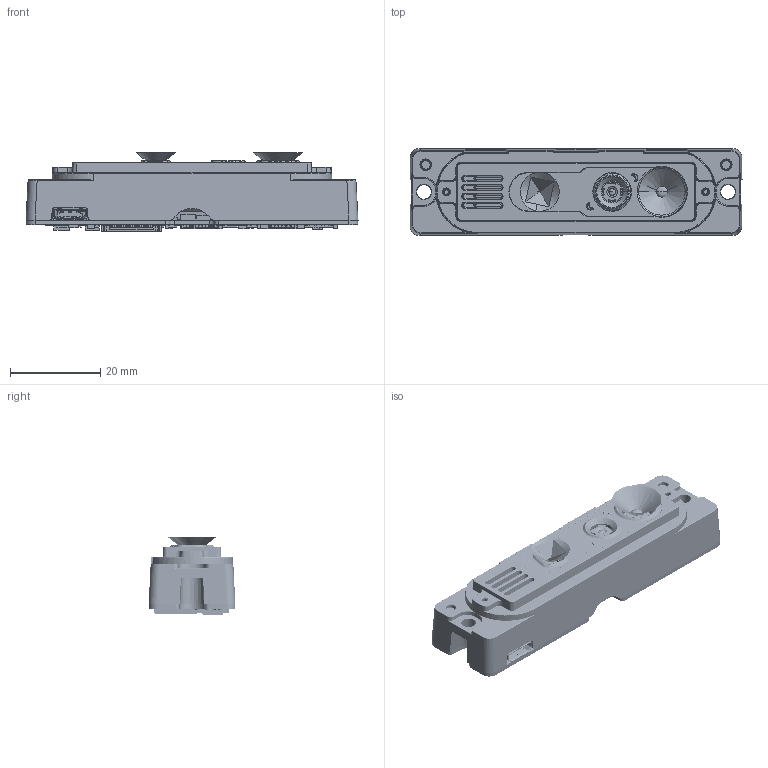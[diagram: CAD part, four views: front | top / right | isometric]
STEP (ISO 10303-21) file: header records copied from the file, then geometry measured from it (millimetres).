
FILE_DESCRIPTION((''),'2;1');
FILE_NAME('000_3DMODEL_ASM','2022-11-04T',('Lenovo'),(''),'CREO PARAMETRIC BY PTC INC, 2016050','CREO PARAMETRIC BY PTC INC, 2016050','');
FILE_SCHEMA(('CONFIG_CONTROL_DESIGN'));
Products named in the file (14): GDZJ_100M; NBZJ_100M; RUBBER_RSTK_M; 00_STRUCTURE_ASM; TX-D049_5; RX-IHAWK100_2_1; RGB_FF_6_1; 00_MODELS_ASM; MICRO_USB; ZIF_28-119-01801-5; IHAWK100M_V30_202200808_ASM_1_ASM; IHAWK100M_V30_202200808_ASM; 00_PCBA_ASM; 000_3DMODEL_ASM
Assembly tree (13 placements, depth 4):
  000_3DMODEL_ASM
    00_STRUCTURE_ASM
      GDZJ_100M
      NBZJ_100M
      RUBBER_RSTK_M
    00_MODELS_ASM
      TX-D049_5
      RX-IHAWK100_2_1
      RGB_FF_6_1
    00_PCBA_ASM
      MICRO_USB
      ZIF_28-119-01801-5
      IHAWK100M_V30_202200808_ASM
        IHAWK100M_V30_202200808_ASM_1_ASM
Bounding box: 73.4 x 19.2 x 17.43 mm (x, y, z)
Volume: 9896.8 mm3; surface area: 16877.2 mm2
Topology: 9 solids, 308 shells, 7407 faces, 19468 edges, 12526 vertices
Faces by surface type: plane 4431, cylinder 1595, torus 637, cone 429, bspline 275, sphere 20, revolution 10, extrusion 10
Entity records: 256709 total; most frequent: CARTESIAN_POINT 72749, ORIENTED_EDGE 38812, DIRECTION 37761, EDGE_CURVE 19425, VECTOR 13321, LINE 13311, VERTEX_POINT 12526, AXIS2_PLACEMENT_3D 12215
